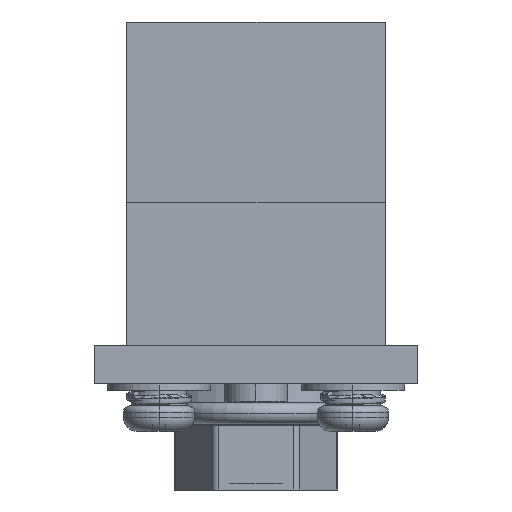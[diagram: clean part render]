
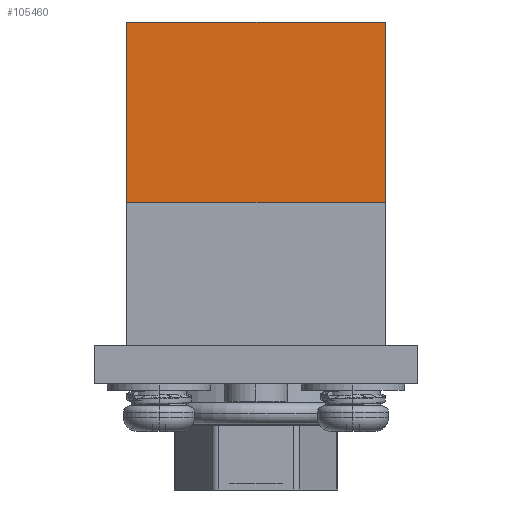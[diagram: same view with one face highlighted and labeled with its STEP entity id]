
A CAD part, left-side view. The second image highlights one B-rep face of the part: STEP entity #105460.
In plain terms, the highlighted planar face has unit normal (-1, 0, 0).
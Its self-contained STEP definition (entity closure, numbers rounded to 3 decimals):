
#103240=CARTESIAN_POINT('',(-27.488,66.46,28.));
#103250=VERTEX_POINT('',#103240);
#103300=CARTESIAN_POINT('',(-27.488,66.46,14.));
#103310=DIRECTION('',(0.,0.,1.));
#103320=VECTOR('',#103310,1.);
#103330=LINE('',#103300,#103320);
#103340=CARTESIAN_POINT('',(-27.488,66.46,14.));
#103350=VERTEX_POINT('',#103340);
#103360=EDGE_CURVE('',#103350,#103250,#103330,.T.);
#104060=CARTESIAN_POINT('',(-27.488,46.46,14.));
#104070=VERTEX_POINT('',#104060);
#104100=CARTESIAN_POINT('',(-27.488,46.46,14.));
#104110=DIRECTION('',(0.,0.,1.));
#104120=VECTOR('',#104110,1.);
#104130=LINE('',#104100,#104120);
#104140=CARTESIAN_POINT('',(-27.488,46.46,28.));
#104150=VERTEX_POINT('',#104140);
#104160=EDGE_CURVE('',#104070,#104150,#104130,.T.);
#105040=CARTESIAN_POINT('',(-27.488,66.46,14.));
#105050=DIRECTION('',(0.,-1.,0.));
#105060=VECTOR('',#105050,1.);
#105070=LINE('',#105040,#105060);
#105080=EDGE_CURVE('',#103350,#104070,#105070,.T.);
#105300=CARTESIAN_POINT('',(-27.488,66.46,28.));
#105310=DIRECTION('',(1.,0.,-0.));
#105320=DIRECTION('',(0.,0.,1.));
#105330=AXIS2_PLACEMENT_3D('',#105300,#105310,#105320);
#105340=PLANE('',#105330);
#105350=ORIENTED_EDGE('',*,*,#103360,.F.);
#105360=CARTESIAN_POINT('',(-27.488,66.46,28.));
#105370=DIRECTION('',(0.,-1.,0.));
#105380=VECTOR('',#105370,1.);
#105390=LINE('',#105360,#105380);
#105400=EDGE_CURVE('',#103250,#104150,#105390,.T.);
#105410=ORIENTED_EDGE('',*,*,#105400,.F.);
#105420=ORIENTED_EDGE('',*,*,#104160,.T.);
#105430=ORIENTED_EDGE('',*,*,#105080,.T.);
#105440=EDGE_LOOP('',(#105430,#105420,#105410,#105350));
#105450=FACE_OUTER_BOUND('',#105440,.T.);
#105460=ADVANCED_FACE('',(#105450),#105340,.F.);
